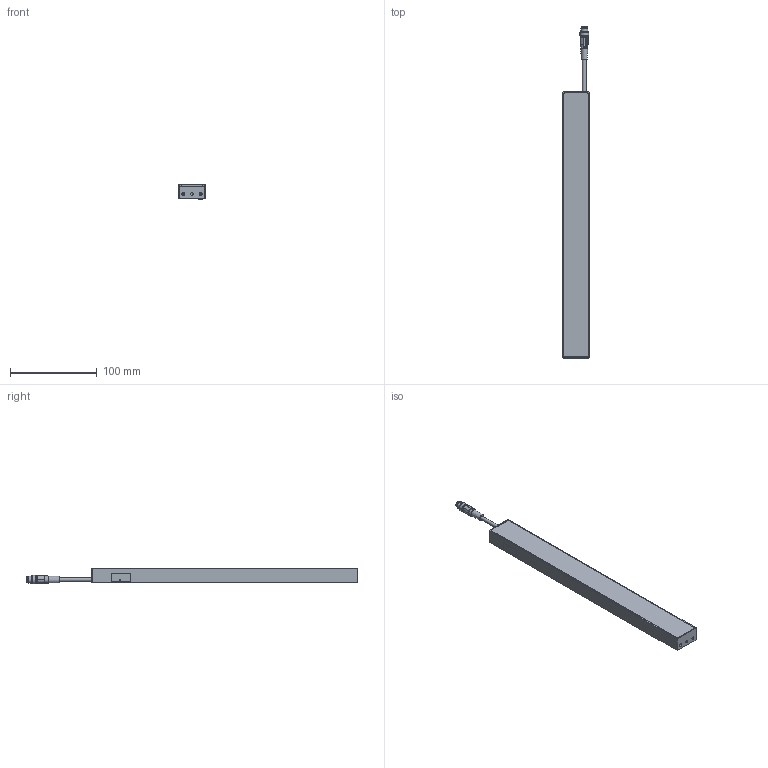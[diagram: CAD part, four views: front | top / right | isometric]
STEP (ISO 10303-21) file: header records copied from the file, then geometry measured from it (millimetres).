
FILE_DESCRIPTION(/* description */ (''),/* implementation_level */ '2;1');
FILE_NAME(/* name */ '10X.0103.YY_BB300',/* time_stamp */ '2024-08-21T09:05:31+02:00',/* author */ (''),/* organization */ ('iiM AG'),/* preprocessor_version */ 'ST-DEVELOPER v16.7',/* originating_system */ 'DEX',/* authorisation */ $);
FILE_SCHEMA (('CONFIG_CONTROL_DESIGN'));
Length unit declared in the file: millimetre
Products named in the file (1): bb300
Bounding box: 31 x 383.12 x 18.32 mm (x, y, z)
Volume: 93043.3 mm3; surface area: 62649.2 mm2
Topology: 2 solids, 2 shells, 208 faces, 543 edges, 352 vertices
Faces by surface type: cylinder 95, plane 92, cone 16, bspline 4, torus 1
Full cylindrical faces by diameter (mm): 1 x4, 2 x1, 3.242 x18, 4.1 x2, 4.2 x2, 5.7 x1, 6.35 x1, 8 x2, 9 x1, 9.3 x2, 10 x1
Entity records: 8151 total; most frequent: CARTESIAN_POINT 1873, DIRECTION 1026, ORIENTED_EDGE 940, EDGE_CURVE 470, AXIS2_PLACEMENT_3D 401, VERTEX_POINT 331, FACE_BOUND 289, EDGE_LOOP 283
